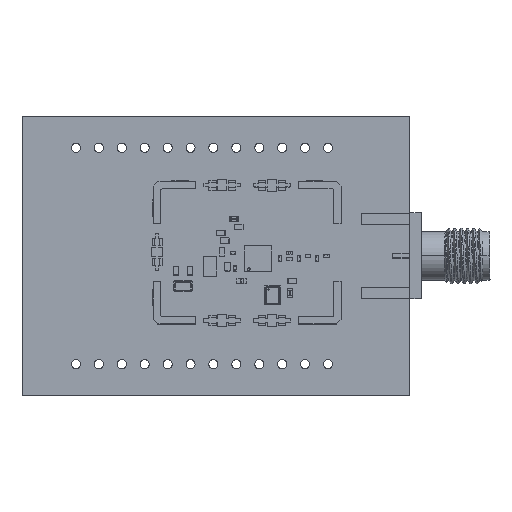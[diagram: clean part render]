
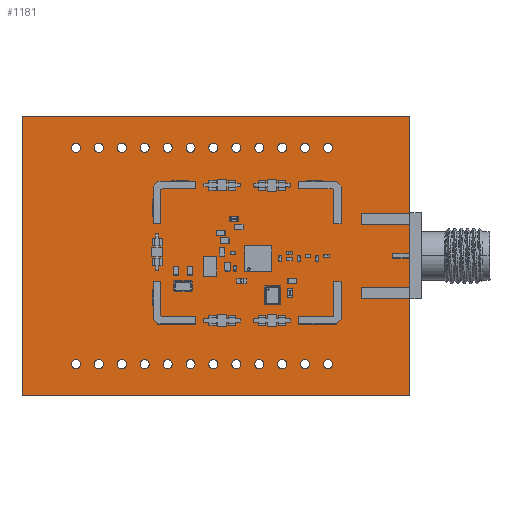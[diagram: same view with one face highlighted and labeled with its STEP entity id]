
A CAD part, top view. The second image highlights one B-rep face of the part: STEP entity #1181.
In plain terms, the highlighted planar face has unit normal (0, 0, 1).
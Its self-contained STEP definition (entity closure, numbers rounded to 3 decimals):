
#188 = VERTEX_POINT('',#189);
#189 = CARTESIAN_POINT('',(0.,0.,0.639));
#195 = EDGE_CURVE('',#188,#196,#198,.T.);
#196 = VERTEX_POINT('',#197);
#197 = CARTESIAN_POINT('',(0.,31.,0.639));
#198 = LINE('',#199,#200);
#199 = CARTESIAN_POINT('',(0.,0.,0.639));
#200 = VECTOR('',#201,1.);
#201 = DIRECTION('',(0.,1.,0.));
#226 = EDGE_CURVE('',#196,#227,#229,.T.);
#227 = VERTEX_POINT('',#228);
#228 = CARTESIAN_POINT('',(43.,31.,0.639));
#229 = LINE('',#230,#231);
#230 = CARTESIAN_POINT('',(0.,31.,0.639));
#231 = VECTOR('',#232,1.);
#232 = DIRECTION('',(1.,0.,0.));
#257 = EDGE_CURVE('',#227,#258,#260,.T.);
#258 = VERTEX_POINT('',#259);
#259 = CARTESIAN_POINT('',(43.,0.,0.639));
#260 = LINE('',#261,#262);
#261 = CARTESIAN_POINT('',(43.,31.,0.639));
#262 = VECTOR('',#263,1.);
#263 = DIRECTION('',(0.,-1.,0.));
#288 = EDGE_CURVE('',#258,#188,#289,.T.);
#289 = LINE('',#290,#291);
#290 = CARTESIAN_POINT('',(43.,0.,0.639));
#291 = VECTOR('',#292,1.);
#292 = DIRECTION('',(-1.,0.,0.));
#312 = VERTEX_POINT('',#313);
#313 = CARTESIAN_POINT('',(11.565,3.5,0.639));
#319 = EDGE_CURVE('',#312,#312,#320,.T.);
#320 = CIRCLE('',#321,0.5);
#321 = AXIS2_PLACEMENT_3D('',#322,#323,#324);
#322 = CARTESIAN_POINT('',(11.065,3.5,0.639));
#323 = DIRECTION('',(0.,0.,1.));
#324 = DIRECTION('',(1.,0.,-0.));
#345 = VERTEX_POINT('',#346);
#346 = CARTESIAN_POINT('',(6.485,3.5,0.639));
#352 = EDGE_CURVE('',#345,#345,#353,.T.);
#353 = CIRCLE('',#354,0.5);
#354 = AXIS2_PLACEMENT_3D('',#355,#356,#357);
#355 = CARTESIAN_POINT('',(5.985,3.5,0.639));
#356 = DIRECTION('',(0.,0.,1.));
#357 = DIRECTION('',(1.,0.,-0.));
#378 = VERTEX_POINT('',#379);
#379 = CARTESIAN_POINT('',(9.025,3.5,0.639));
#385 = EDGE_CURVE('',#378,#378,#386,.T.);
#386 = CIRCLE('',#387,0.5);
#387 = AXIS2_PLACEMENT_3D('',#388,#389,#390);
#388 = CARTESIAN_POINT('',(8.525,3.5,0.639));
#389 = DIRECTION('',(0.,0.,1.));
#390 = DIRECTION('',(1.,0.,-0.));
#411 = VERTEX_POINT('',#412);
#412 = CARTESIAN_POINT('',(19.185,3.5,0.639));
#418 = EDGE_CURVE('',#411,#411,#419,.T.);
#419 = CIRCLE('',#420,0.5);
#420 = AXIS2_PLACEMENT_3D('',#421,#422,#423);
#421 = CARTESIAN_POINT('',(18.685,3.5,0.639));
#422 = DIRECTION('',(0.,0.,1.));
#423 = DIRECTION('',(1.,0.,-0.));
#444 = VERTEX_POINT('',#445);
#445 = CARTESIAN_POINT('',(14.105,3.5,0.639));
#451 = EDGE_CURVE('',#444,#444,#452,.T.);
#452 = CIRCLE('',#453,0.5);
#453 = AXIS2_PLACEMENT_3D('',#454,#455,#456);
#454 = CARTESIAN_POINT('',(13.605,3.5,0.639));
#455 = DIRECTION('',(0.,0.,1.));
#456 = DIRECTION('',(1.,0.,-0.));
#477 = VERTEX_POINT('',#478);
#478 = CARTESIAN_POINT('',(16.645,3.5,0.639));
#484 = EDGE_CURVE('',#477,#477,#485,.T.);
#485 = CIRCLE('',#486,0.5);
#486 = AXIS2_PLACEMENT_3D('',#487,#488,#489);
#487 = CARTESIAN_POINT('',(16.145,3.5,0.639));
#488 = DIRECTION('',(0.,0.,1.));
#489 = DIRECTION('',(1.,0.,-0.));
#510 = VERTEX_POINT('',#511);
#511 = CARTESIAN_POINT('',(11.565,27.5,0.639));
#517 = EDGE_CURVE('',#510,#510,#518,.T.);
#518 = CIRCLE('',#519,0.5);
#519 = AXIS2_PLACEMENT_3D('',#520,#521,#522);
#520 = CARTESIAN_POINT('',(11.065,27.5,0.639));
#521 = DIRECTION('',(0.,0.,1.));
#522 = DIRECTION('',(1.,0.,-0.));
#543 = VERTEX_POINT('',#544);
#544 = CARTESIAN_POINT('',(6.485,27.5,0.639));
#550 = EDGE_CURVE('',#543,#543,#551,.T.);
#551 = CIRCLE('',#552,0.5);
#552 = AXIS2_PLACEMENT_3D('',#553,#554,#555);
#553 = CARTESIAN_POINT('',(5.985,27.5,0.639));
#554 = DIRECTION('',(0.,0.,1.));
#555 = DIRECTION('',(1.,0.,-0.));
#576 = VERTEX_POINT('',#577);
#577 = CARTESIAN_POINT('',(9.025,27.5,0.639));
#583 = EDGE_CURVE('',#576,#576,#584,.T.);
#584 = CIRCLE('',#585,0.5);
#585 = AXIS2_PLACEMENT_3D('',#586,#587,#588);
#586 = CARTESIAN_POINT('',(8.525,27.5,0.639));
#587 = DIRECTION('',(0.,0.,1.));
#588 = DIRECTION('',(1.,0.,-0.));
#609 = VERTEX_POINT('',#610);
#610 = CARTESIAN_POINT('',(19.185,27.5,0.639));
#616 = EDGE_CURVE('',#609,#609,#617,.T.);
#617 = CIRCLE('',#618,0.5);
#618 = AXIS2_PLACEMENT_3D('',#619,#620,#621);
#619 = CARTESIAN_POINT('',(18.685,27.5,0.639));
#620 = DIRECTION('',(0.,0.,1.));
#621 = DIRECTION('',(1.,0.,-0.));
#642 = VERTEX_POINT('',#643);
#643 = CARTESIAN_POINT('',(14.105,27.5,0.639));
#649 = EDGE_CURVE('',#642,#642,#650,.T.);
#650 = CIRCLE('',#651,0.5);
#651 = AXIS2_PLACEMENT_3D('',#652,#653,#654);
#652 = CARTESIAN_POINT('',(13.605,27.5,0.639));
#653 = DIRECTION('',(0.,0.,1.));
#654 = DIRECTION('',(1.,0.,-0.));
#675 = VERTEX_POINT('',#676);
#676 = CARTESIAN_POINT('',(16.645,27.5,0.639));
#682 = EDGE_CURVE('',#675,#675,#683,.T.);
#683 = CIRCLE('',#684,0.5);
#684 = AXIS2_PLACEMENT_3D('',#685,#686,#687);
#685 = CARTESIAN_POINT('',(16.145,27.5,0.639));
#686 = DIRECTION('',(0.,0.,1.));
#687 = DIRECTION('',(1.,0.,-0.));
#708 = VERTEX_POINT('',#709);
#709 = CARTESIAN_POINT('',(26.805,3.5,0.639));
#715 = EDGE_CURVE('',#708,#708,#716,.T.);
#716 = CIRCLE('',#717,0.5);
#717 = AXIS2_PLACEMENT_3D('',#718,#719,#720);
#718 = CARTESIAN_POINT('',(26.305,3.5,0.639));
#719 = DIRECTION('',(0.,0.,1.));
#720 = DIRECTION('',(1.,0.,-0.));
#741 = VERTEX_POINT('',#742);
#742 = CARTESIAN_POINT('',(21.725,3.5,0.639));
#748 = EDGE_CURVE('',#741,#741,#749,.T.);
#749 = CIRCLE('',#750,0.5);
#750 = AXIS2_PLACEMENT_3D('',#751,#752,#753);
#751 = CARTESIAN_POINT('',(21.225,3.5,0.639));
#752 = DIRECTION('',(0.,0.,1.));
#753 = DIRECTION('',(1.,0.,-0.));
#774 = VERTEX_POINT('',#775);
#775 = CARTESIAN_POINT('',(24.265,3.5,0.639));
#781 = EDGE_CURVE('',#774,#774,#782,.T.);
#782 = CIRCLE('',#783,0.5);
#783 = AXIS2_PLACEMENT_3D('',#784,#785,#786);
#784 = CARTESIAN_POINT('',(23.765,3.5,0.639));
#785 = DIRECTION('',(0.,0.,1.));
#786 = DIRECTION('',(1.,0.,-0.));
#807 = VERTEX_POINT('',#808);
#808 = CARTESIAN_POINT('',(34.425,3.5,0.639));
#814 = EDGE_CURVE('',#807,#807,#815,.T.);
#815 = CIRCLE('',#816,0.5);
#816 = AXIS2_PLACEMENT_3D('',#817,#818,#819);
#817 = CARTESIAN_POINT('',(33.925,3.5,0.639));
#818 = DIRECTION('',(0.,0.,1.));
#819 = DIRECTION('',(1.,0.,-0.));
#840 = VERTEX_POINT('',#841);
#841 = CARTESIAN_POINT('',(29.345,3.5,0.639));
#847 = EDGE_CURVE('',#840,#840,#848,.T.);
#848 = CIRCLE('',#849,0.5);
#849 = AXIS2_PLACEMENT_3D('',#850,#851,#852);
#850 = CARTESIAN_POINT('',(28.845,3.5,0.639));
#851 = DIRECTION('',(0.,0.,1.));
#852 = DIRECTION('',(1.,0.,-0.));
#873 = VERTEX_POINT('',#874);
#874 = CARTESIAN_POINT('',(31.885,3.5,0.639));
#880 = EDGE_CURVE('',#873,#873,#881,.T.);
#881 = CIRCLE('',#882,0.5);
#882 = AXIS2_PLACEMENT_3D('',#883,#884,#885);
#883 = CARTESIAN_POINT('',(31.385,3.5,0.639));
#884 = DIRECTION('',(0.,0.,1.));
#885 = DIRECTION('',(1.,0.,-0.));
#906 = VERTEX_POINT('',#907);
#907 = CARTESIAN_POINT('',(26.805,27.5,0.639));
#913 = EDGE_CURVE('',#906,#906,#914,.T.);
#914 = CIRCLE('',#915,0.5);
#915 = AXIS2_PLACEMENT_3D('',#916,#917,#918);
#916 = CARTESIAN_POINT('',(26.305,27.5,0.639));
#917 = DIRECTION('',(0.,0.,1.));
#918 = DIRECTION('',(1.,0.,-0.));
#939 = VERTEX_POINT('',#940);
#940 = CARTESIAN_POINT('',(21.725,27.5,0.639));
#946 = EDGE_CURVE('',#939,#939,#947,.T.);
#947 = CIRCLE('',#948,0.5);
#948 = AXIS2_PLACEMENT_3D('',#949,#950,#951);
#949 = CARTESIAN_POINT('',(21.225,27.5,0.639));
#950 = DIRECTION('',(0.,0.,1.));
#951 = DIRECTION('',(1.,0.,-0.));
#972 = VERTEX_POINT('',#973);
#973 = CARTESIAN_POINT('',(24.265,27.5,0.639));
#979 = EDGE_CURVE('',#972,#972,#980,.T.);
#980 = CIRCLE('',#981,0.5);
#981 = AXIS2_PLACEMENT_3D('',#982,#983,#984);
#982 = CARTESIAN_POINT('',(23.765,27.5,0.639));
#983 = DIRECTION('',(0.,0.,1.));
#984 = DIRECTION('',(1.,0.,-0.));
#1005 = VERTEX_POINT('',#1006);
#1006 = CARTESIAN_POINT('',(34.425,27.5,0.639));
#1012 = EDGE_CURVE('',#1005,#1005,#1013,.T.);
#1013 = CIRCLE('',#1014,0.5);
#1014 = AXIS2_PLACEMENT_3D('',#1015,#1016,#1017);
#1015 = CARTESIAN_POINT('',(33.925,27.5,0.639));
#1016 = DIRECTION('',(0.,0.,1.));
#1017 = DIRECTION('',(1.,0.,-0.));
#1038 = VERTEX_POINT('',#1039);
#1039 = CARTESIAN_POINT('',(29.345,27.5,0.639));
#1045 = EDGE_CURVE('',#1038,#1038,#1046,.T.);
#1046 = CIRCLE('',#1047,0.5);
#1047 = AXIS2_PLACEMENT_3D('',#1048,#1049,#1050);
#1048 = CARTESIAN_POINT('',(28.845,27.5,0.639));
#1049 = DIRECTION('',(0.,0.,1.));
#1050 = DIRECTION('',(1.,0.,-0.));
#1071 = VERTEX_POINT('',#1072);
#1072 = CARTESIAN_POINT('',(31.885,27.5,0.639));
#1078 = EDGE_CURVE('',#1071,#1071,#1079,.T.);
#1079 = CIRCLE('',#1080,0.5);
#1080 = AXIS2_PLACEMENT_3D('',#1081,#1082,#1083);
#1081 = CARTESIAN_POINT('',(31.385,27.5,0.639));
#1082 = DIRECTION('',(0.,0.,1.));
#1083 = DIRECTION('',(1.,0.,-0.));
#1181 = ADVANCED_FACE('',(#1182,#1188,#1191,#1194,#1197,#1200,#1203,
    #1206,#1209,#1212,#1215,#1218,#1221,#1224,#1227,#1230,#1233,#1236,
    #1239,#1242,#1245,#1248,#1251,#1254,#1257),#1260,.F.);
#1182 = FACE_BOUND('',#1183,.F.);
#1183 = EDGE_LOOP('',(#1184,#1185,#1186,#1187));
#1184 = ORIENTED_EDGE('',*,*,#195,.T.);
#1185 = ORIENTED_EDGE('',*,*,#226,.T.);
#1186 = ORIENTED_EDGE('',*,*,#257,.T.);
#1187 = ORIENTED_EDGE('',*,*,#288,.T.);
#1188 = FACE_BOUND('',#1189,.F.);
#1189 = EDGE_LOOP('',(#1190));
#1190 = ORIENTED_EDGE('',*,*,#319,.T.);
#1191 = FACE_BOUND('',#1192,.F.);
#1192 = EDGE_LOOP('',(#1193));
#1193 = ORIENTED_EDGE('',*,*,#352,.T.);
#1194 = FACE_BOUND('',#1195,.F.);
#1195 = EDGE_LOOP('',(#1196));
#1196 = ORIENTED_EDGE('',*,*,#385,.T.);
#1197 = FACE_BOUND('',#1198,.F.);
#1198 = EDGE_LOOP('',(#1199));
#1199 = ORIENTED_EDGE('',*,*,#418,.T.);
#1200 = FACE_BOUND('',#1201,.F.);
#1201 = EDGE_LOOP('',(#1202));
#1202 = ORIENTED_EDGE('',*,*,#451,.T.);
#1203 = FACE_BOUND('',#1204,.F.);
#1204 = EDGE_LOOP('',(#1205));
#1205 = ORIENTED_EDGE('',*,*,#484,.T.);
#1206 = FACE_BOUND('',#1207,.F.);
#1207 = EDGE_LOOP('',(#1208));
#1208 = ORIENTED_EDGE('',*,*,#517,.T.);
#1209 = FACE_BOUND('',#1210,.F.);
#1210 = EDGE_LOOP('',(#1211));
#1211 = ORIENTED_EDGE('',*,*,#550,.T.);
#1212 = FACE_BOUND('',#1213,.F.);
#1213 = EDGE_LOOP('',(#1214));
#1214 = ORIENTED_EDGE('',*,*,#583,.T.);
#1215 = FACE_BOUND('',#1216,.F.);
#1216 = EDGE_LOOP('',(#1217));
#1217 = ORIENTED_EDGE('',*,*,#616,.T.);
#1218 = FACE_BOUND('',#1219,.F.);
#1219 = EDGE_LOOP('',(#1220));
#1220 = ORIENTED_EDGE('',*,*,#649,.T.);
#1221 = FACE_BOUND('',#1222,.F.);
#1222 = EDGE_LOOP('',(#1223));
#1223 = ORIENTED_EDGE('',*,*,#682,.T.);
#1224 = FACE_BOUND('',#1225,.F.);
#1225 = EDGE_LOOP('',(#1226));
#1226 = ORIENTED_EDGE('',*,*,#715,.T.);
#1227 = FACE_BOUND('',#1228,.F.);
#1228 = EDGE_LOOP('',(#1229));
#1229 = ORIENTED_EDGE('',*,*,#748,.T.);
#1230 = FACE_BOUND('',#1231,.F.);
#1231 = EDGE_LOOP('',(#1232));
#1232 = ORIENTED_EDGE('',*,*,#781,.T.);
#1233 = FACE_BOUND('',#1234,.F.);
#1234 = EDGE_LOOP('',(#1235));
#1235 = ORIENTED_EDGE('',*,*,#814,.T.);
#1236 = FACE_BOUND('',#1237,.F.);
#1237 = EDGE_LOOP('',(#1238));
#1238 = ORIENTED_EDGE('',*,*,#847,.T.);
#1239 = FACE_BOUND('',#1240,.F.);
#1240 = EDGE_LOOP('',(#1241));
#1241 = ORIENTED_EDGE('',*,*,#880,.T.);
#1242 = FACE_BOUND('',#1243,.F.);
#1243 = EDGE_LOOP('',(#1244));
#1244 = ORIENTED_EDGE('',*,*,#913,.T.);
#1245 = FACE_BOUND('',#1246,.F.);
#1246 = EDGE_LOOP('',(#1247));
#1247 = ORIENTED_EDGE('',*,*,#946,.T.);
#1248 = FACE_BOUND('',#1249,.F.);
#1249 = EDGE_LOOP('',(#1250));
#1250 = ORIENTED_EDGE('',*,*,#979,.T.);
#1251 = FACE_BOUND('',#1252,.F.);
#1252 = EDGE_LOOP('',(#1253));
#1253 = ORIENTED_EDGE('',*,*,#1012,.T.);
#1254 = FACE_BOUND('',#1255,.F.);
#1255 = EDGE_LOOP('',(#1256));
#1256 = ORIENTED_EDGE('',*,*,#1045,.T.);
#1257 = FACE_BOUND('',#1258,.F.);
#1258 = EDGE_LOOP('',(#1259));
#1259 = ORIENTED_EDGE('',*,*,#1078,.T.);
#1260 = PLANE('',#1261);
#1261 = AXIS2_PLACEMENT_3D('',#1262,#1263,#1264);
#1262 = CARTESIAN_POINT('',(21.5,15.5,0.639));
#1263 = DIRECTION('',(-0.,-0.,-1.));
#1264 = DIRECTION('',(-1.,0.,0.));
